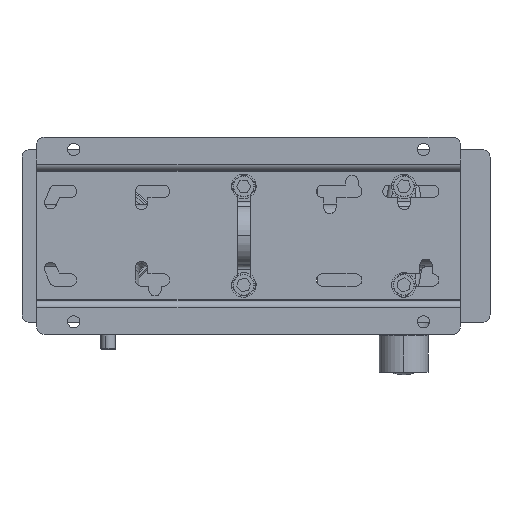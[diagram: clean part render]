
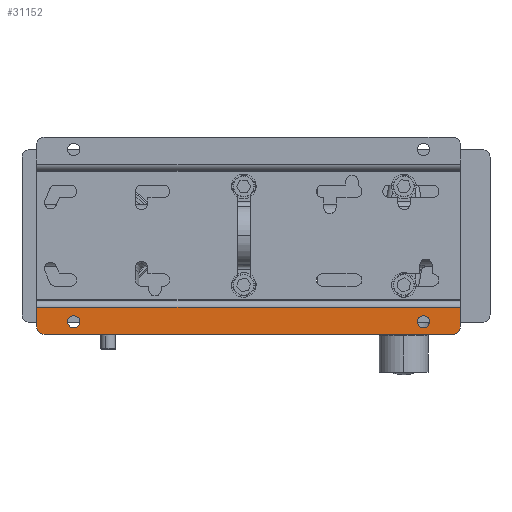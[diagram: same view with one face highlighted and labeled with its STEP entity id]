
A CAD part, top view. The second image highlights one B-rep face of the part: STEP entity #31152.
In plain terms, the highlighted planar face has unit normal (0, 0, 1) as drawn and (0, -1, 0) by its records, which use the part's own axes.
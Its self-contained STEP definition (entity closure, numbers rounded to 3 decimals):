
#180 = CARTESIAN_POINT ( 'NONE',  ( 172., -11., 71. ) ) ;
#499 = DIRECTION ( 'NONE',  ( 0., 0., -1. ) ) ;
#626 = EDGE_CURVE ( 'NONE', #14033, #5912, #14174, .T. ) ;
#764 = EDGE_LOOP ( 'NONE', ( #2867, #32353 ) ) ;
#2779 = AXIS2_PLACEMENT_3D ( 'NONE', #7494, #13000, #4839 ) ;
#2867 = ORIENTED_EDGE ( 'NONE', *, *, #36945, .F. ) ;
#4331 = VECTOR ( 'NONE', #499, 1000. ) ;
#4540 = CIRCLE ( 'NONE', #11197, 3. ) ;
#4839 = DIRECTION ( 'NONE',  ( 0., 0., -1. ) ) ;
#5205 = PLANE ( 'NONE',  #20118 ) ;
#5912 = VERTEX_POINT ( 'NONE', #16302 ) ;
#6072 = CARTESIAN_POINT ( 'NONE',  ( 169., -11., 68. ) ) ;
#6358 = CARTESIAN_POINT ( 'NONE',  ( 172., -11., 68. ) ) ;
#7364 = VECTOR ( 'NONE', #8905, 1000. ) ;
#7493 = FACE_BOUND ( 'NONE', #764, .T. ) ;
#7494 = CARTESIAN_POINT ( 'NONE',  ( 157., -11., 66. ) ) ;
#8044 = FACE_BOUND ( 'NONE', #30572, .T. ) ;
#8192 = CARTESIAN_POINT ( 'NONE',  ( 15., -11., 63.5 ) ) ;
#8399 = DIRECTION ( 'NONE',  ( 0., -1., 0. ) ) ;
#8687 = VERTEX_POINT ( 'NONE', #8192 ) ;
#8761 = AXIS2_PLACEMENT_3D ( 'NONE', #29613, #21054, #29418 ) ;
#8770 = EDGE_LOOP ( 'NONE', ( #13579, #22886, #18739, #24631, #19586, #30406 ) ) ;
#8901 = CARTESIAN_POINT ( 'NONE',  ( 0., -11., 60. ) ) ;
#8905 = DIRECTION ( 'NONE',  ( 1., 0., 0. ) ) ;
#9265 = EDGE_CURVE ( 'NONE', #14033, #13855, #18243, .T. ) ;
#9793 = CIRCLE ( 'NONE', #25591, 2.5 ) ;
#10683 = CARTESIAN_POINT ( 'NONE',  ( 157., -11., 63.5 ) ) ;
#10871 = DIRECTION ( 'NONE',  ( 0., -1., 0. ) ) ;
#11197 = AXIS2_PLACEMENT_3D ( 'NONE', #6072, #11945, #26386 ) ;
#11880 = CIRCLE ( 'NONE', #2779, 2.5 ) ;
#11945 = DIRECTION ( 'NONE',  ( 0., -1., 0. ) ) ;
#11990 = CARTESIAN_POINT ( 'NONE',  ( 15., -11., 68.5 ) ) ;
#12242 = EDGE_CURVE ( 'NONE', #16196, #17036, #20921, .T. ) ;
#13000 = DIRECTION ( 'NONE',  ( 0., -1., 0. ) ) ;
#13174 = EDGE_CURVE ( 'NONE', #18057, #14467, #4540, .T. ) ;
#13307 = CARTESIAN_POINT ( 'NONE',  ( 3., -11., 68. ) ) ;
#13579 = ORIENTED_EDGE ( 'NONE', *, *, #17671, .F. ) ;
#13855 = VERTEX_POINT ( 'NONE', #15700 ) ;
#14033 = VERTEX_POINT ( 'NONE', #15887 ) ;
#14174 = LINE ( 'NONE', #20260, #15956 ) ;
#14467 = VERTEX_POINT ( 'NONE', #31407 ) ;
#15700 = CARTESIAN_POINT ( 'NONE',  ( 172., -11., 60. ) ) ;
#15887 = CARTESIAN_POINT ( 'NONE',  ( 0., -11., 60. ) ) ;
#15956 = VECTOR ( 'NONE', #23295, 1000. ) ;
#16196 = VERTEX_POINT ( 'NONE', #18598 ) ;
#16202 = CARTESIAN_POINT ( 'NONE',  ( 3., -11., 71. ) ) ;
#16302 = CARTESIAN_POINT ( 'NONE',  ( 0., -11., 68. ) ) ;
#16717 = DIRECTION ( 'NONE',  ( 0., -1., 0. ) ) ;
#17036 = VERTEX_POINT ( 'NONE', #10683 ) ;
#17569 = AXIS2_PLACEMENT_3D ( 'NONE', #24756, #10871, #19437 ) ;
#17671 = EDGE_CURVE ( 'NONE', #32831, #14467, #26212, .T. ) ;
#17835 = AXIS2_PLACEMENT_3D ( 'NONE', #13307, #16717, #21879 ) ;
#18057 = VERTEX_POINT ( 'NONE', #6358 ) ;
#18243 = LINE ( 'NONE', #8901, #26412 ) ;
#18311 = EDGE_CURVE ( 'NONE', #8687, #26518, #9793, .T. ) ;
#18598 = CARTESIAN_POINT ( 'NONE',  ( 157., -11., 68.5 ) ) ;
#18739 = ORIENTED_EDGE ( 'NONE', *, *, #626, .F. ) ;
#18803 = CIRCLE ( 'NONE', #17569, 2.5 ) ;
#18913 = DIRECTION ( 'NONE',  ( 0., 0., -1. ) ) ;
#19437 = DIRECTION ( 'NONE',  ( 0., 0., -1. ) ) ;
#19586 = ORIENTED_EDGE ( 'NONE', *, *, #31073, .F. ) ;
#20118 = AXIS2_PLACEMENT_3D ( 'NONE', #22335, #21955, #18913 ) ;
#20260 = CARTESIAN_POINT ( 'NONE',  ( 0., -11., 71. ) ) ;
#20921 = CIRCLE ( 'NONE', #8761, 2.5 ) ;
#21054 = DIRECTION ( 'NONE',  ( 0., -1., 0. ) ) ;
#21879 = DIRECTION ( 'NONE',  ( 0., 0., -1. ) ) ;
#21955 = DIRECTION ( 'NONE',  ( 0., -1., 0. ) ) ;
#22335 = CARTESIAN_POINT ( 'NONE',  ( 0., -11., 0. ) ) ;
#22886 = ORIENTED_EDGE ( 'NONE', *, *, #34174, .T. ) ;
#23295 = DIRECTION ( 'NONE',  ( 0., 0., 1. ) ) ;
#24631 = ORIENTED_EDGE ( 'NONE', *, *, #9265, .T. ) ;
#24756 = CARTESIAN_POINT ( 'NONE',  ( 15., -11., 66. ) ) ;
#24965 = EDGE_CURVE ( 'NONE', #17036, #16196, #11880, .T. ) ;
#25591 = AXIS2_PLACEMENT_3D ( 'NONE', #36734, #8399, #36544 ) ;
#25720 = CIRCLE ( 'NONE', #17835, 3. ) ;
#26212 = LINE ( 'NONE', #180, #7364 ) ;
#26386 = DIRECTION ( 'NONE',  ( 0., 0., -1. ) ) ;
#26412 = VECTOR ( 'NONE', #29830, 1000. ) ;
#26518 = VERTEX_POINT ( 'NONE', #11990 ) ;
#26913 = LINE ( 'NONE', #36014, #4331 ) ;
#29418 = DIRECTION ( 'NONE',  ( 0., 0., -1. ) ) ;
#29613 = CARTESIAN_POINT ( 'NONE',  ( 157., -11., 66. ) ) ;
#29830 = DIRECTION ( 'NONE',  ( 1., 0., 0. ) ) ;
#30406 = ORIENTED_EDGE ( 'NONE', *, *, #13174, .T. ) ;
#30572 = EDGE_LOOP ( 'NONE', ( #35363, #37463 ) ) ;
#31073 = EDGE_CURVE ( 'NONE', #18057, #13855, #26913, .T. ) ;
#31152 = ADVANCED_FACE ( 'NONE', ( #8044, #7493, #36754 ), #5205, .T. ) ;
#31407 = CARTESIAN_POINT ( 'NONE',  ( 169., -11., 71. ) ) ;
#32353 = ORIENTED_EDGE ( 'NONE', *, *, #18311, .F. ) ;
#32831 = VERTEX_POINT ( 'NONE', #16202 ) ;
#34174 = EDGE_CURVE ( 'NONE', #32831, #5912, #25720, .T. ) ;
#35363 = ORIENTED_EDGE ( 'NONE', *, *, #12242, .F. ) ;
#36014 = CARTESIAN_POINT ( 'NONE',  ( 172., -11., 59. ) ) ;
#36544 = DIRECTION ( 'NONE',  ( 0., 0., -1. ) ) ;
#36734 = CARTESIAN_POINT ( 'NONE',  ( 15., -11., 66. ) ) ;
#36754 = FACE_OUTER_BOUND ( 'NONE', #8770, .T. ) ;
#36945 = EDGE_CURVE ( 'NONE', #26518, #8687, #18803, .T. ) ;
#37463 = ORIENTED_EDGE ( 'NONE', *, *, #24965, .F. ) ;
